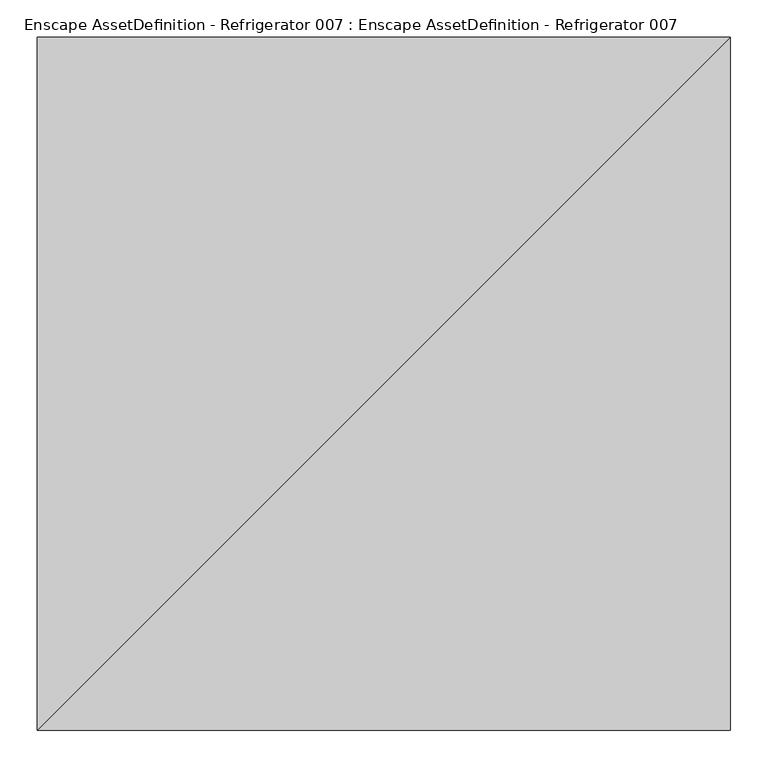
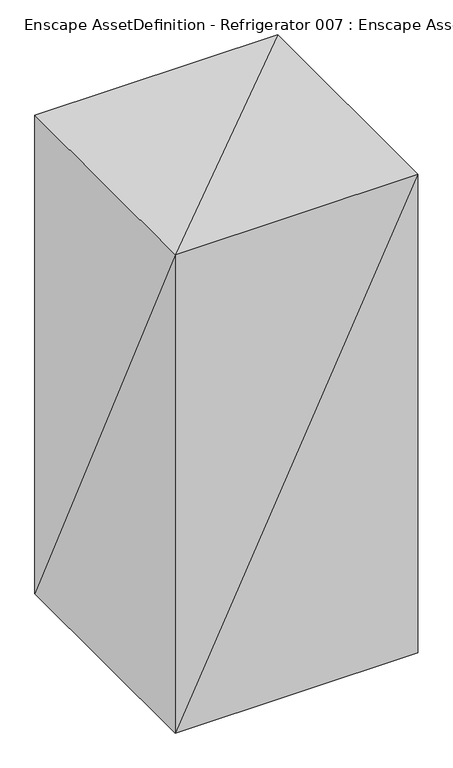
"""IFC4 building model written with IfcOpenShell, lengths in millimetres: geographic element geometry, Enscape AssetDefinition - Refrigerator 007 : Enscape AssetDefinition - Refrigerator 007."""

from ifc_helpers import new_model, si_unit, origin, place, context, project, spatial, faceted_brep, source, transform, mapped, element, save


def enscape_assetdefinition_refrigerator_007_enscape_9d81f1ac(model_context):
    return source(origin(), model_context, "Body", "Brep", [
        faceted_brep([(462.3136592, -462.3136592, 0.0), (-462.3136592, -462.3136592, 0.0), (462.3136592, 462.3136592, 0.0), (-462.3136592, 462.3136592, 1927.0), (-462.3136592, -462.3136592, 1927.0), (462.3136592, 462.3136592, 1927.0), (462.3136592, -462.3136592, 1927.0), (-462.3136592, 462.3136592, 0.0)], [[[0, 1, 2]], [[3, 4, 5]], [[4, 1, 6]], [[6, 0, 5]], [[5, 2, 3]], [[3, 7, 4]], [[2, 1, 7]], [[5, 4, 6]], [[6, 1, 0]], [[5, 0, 2]], [[3, 2, 7]], [[4, 7, 1]]]),
    ])


if __name__ == "__main__":
    model = new_model("IFC4")
    model_context = context("Model", 3, world=origin())
    ifc_project = project(units=[si_unit("LENGTHUNIT", "METRE", prefix="MILLI")], contexts=[model_context])
    site = spatial("IfcSite", under=ifc_project)
    building = spatial("IfcBuilding", under=site)
    placement = place(None, origin())
    enscape_assetdefinition_refrigerator_007_enscape_shape = enscape_assetdefinition_refrigerator_007_enscape_9d81f1ac(model_context)
    element("IfcGeographicElement", 1, ObjectType="Enscape AssetDefinition - Refrigerator 007 : Enscape AssetDefinition - Refrigerator 007", at=placement, inside=building, context=model_context, shape_type="MappedRepresentation", body=[
        mapped(enscape_assetdefinition_refrigerator_007_enscape_shape, transform((0.0, 0.0, 0.0), x_axis=(1.0, 0.0, 0.0), y_axis=(0.0, 1.0, 0.0), z_axis=(0.0, 0.0, 1.0))),
    ])
    save(model, "model.ifc")
